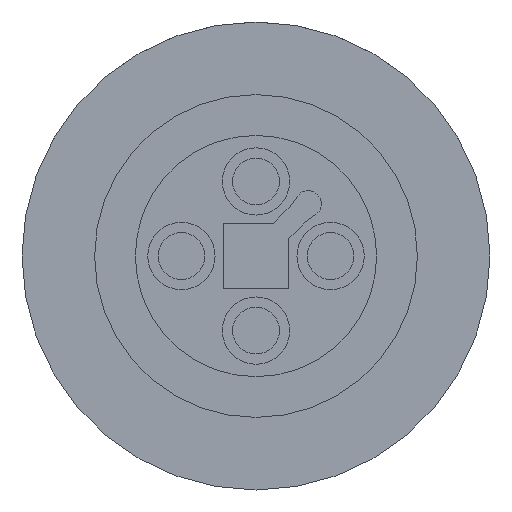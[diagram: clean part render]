
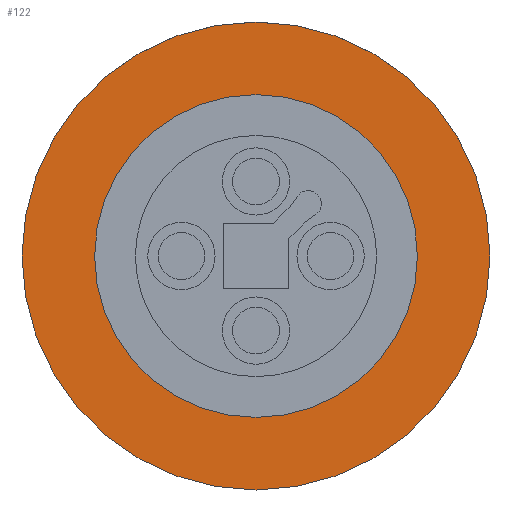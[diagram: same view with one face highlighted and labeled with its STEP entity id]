
A CAD part, front view. The second image highlights one B-rep face of the part: STEP entity #122.
In plain terms, the highlighted planar face has unit normal (0, -1, 0).
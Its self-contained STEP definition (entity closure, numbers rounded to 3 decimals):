
#42 = DIRECTION ( 'NONE',  ( 0., 0., -1. ) ) ;
#74 = EDGE_CURVE ( 'NONE', #2728, #2045, #2833, .T. ) ;
#78 = EDGE_LOOP ( 'NONE', ( #155, #629 ) ) ;
#86 = DIRECTION ( 'NONE',  ( 0., 1., 0. ) ) ;
#89 = ORIENTED_EDGE ( 'NONE', *, *, #141, .T. ) ;
#122 = ADVANCED_FACE ( 'NONE', ( #2101, #1867 ), #2812, .T. ) ;
#141 = EDGE_CURVE ( 'NONE', #2538, #2089, #1887, .T. ) ;
#155 = ORIENTED_EDGE ( 'NONE', *, *, #943, .F. ) ;
#295 = DIRECTION ( 'NONE',  ( 0., 0., -1. ) ) ;
#325 = AXIS2_PLACEMENT_3D ( 'NONE', #786, #952, #2087 ) ;
#512 = DIRECTION ( 'NONE',  ( 0., 1., 0. ) ) ;
#529 = DIRECTION ( 'NONE',  ( 0., 0., -1. ) ) ;
#621 = CARTESIAN_POINT ( 'NONE',  ( 0., -53.45, -0.001 ) ) ;
#629 = ORIENTED_EDGE ( 'NONE', *, *, #74, .F. ) ;
#638 = CARTESIAN_POINT ( 'NONE',  ( 0., -53.45, 7.999 ) ) ;
#661 = CARTESIAN_POINT ( 'NONE',  ( 0., -53.45, -8.001 ) ) ;
#731 = CARTESIAN_POINT ( 'NONE',  ( 0., -53.45, -0.001 ) ) ;
#737 = DIRECTION ( 'NONE',  ( 0., 1., 0. ) ) ;
#786 = CARTESIAN_POINT ( 'NONE',  ( -7.07, -53.45, 1.542 ) ) ;
#810 = CIRCLE ( 'NONE', #2471, 5.518 ) ;
#943 = EDGE_CURVE ( 'NONE', #2045, #2728, #1000, .T. ) ;
#952 = DIRECTION ( 'NONE',  ( 0., -1., 0. ) ) ;
#969 = CARTESIAN_POINT ( 'NONE',  ( 0., -53.45, -0.001 ) ) ;
#1000 = CIRCLE ( 'NONE', #1849, 8. ) ;
#1037 = AXIS2_PLACEMENT_3D ( 'NONE', #731, #512, #529 ) ;
#1272 = DIRECTION ( 'NONE',  ( 0., 1., 0. ) ) ;
#1325 = AXIS2_PLACEMENT_3D ( 'NONE', #969, #86, #295 ) ;
#1487 = CARTESIAN_POINT ( 'NONE',  ( 0., -53.45, -5.519 ) ) ;
#1651 = CARTESIAN_POINT ( 'NONE',  ( 0., -53.45, -0.001 ) ) ;
#1689 = ORIENTED_EDGE ( 'NONE', *, *, #2754, .T. ) ;
#1849 = AXIS2_PLACEMENT_3D ( 'NONE', #1651, #737, #42 ) ;
#1867 = FACE_BOUND ( 'NONE', #2907, .T. ) ;
#1887 = CIRCLE ( 'NONE', #1037, 5.518 ) ;
#2045 = VERTEX_POINT ( 'NONE', #661 ) ;
#2087 = DIRECTION ( 'NONE',  ( 0., 0., -1. ) ) ;
#2089 = VERTEX_POINT ( 'NONE', #1487 ) ;
#2101 = FACE_OUTER_BOUND ( 'NONE', #78, .T. ) ;
#2458 = DIRECTION ( 'NONE',  ( 0., 0., -1. ) ) ;
#2471 = AXIS2_PLACEMENT_3D ( 'NONE', #621, #1272, #2458 ) ;
#2538 = VERTEX_POINT ( 'NONE', #2605 ) ;
#2605 = CARTESIAN_POINT ( 'NONE',  ( 0., -53.45, 5.516 ) ) ;
#2728 = VERTEX_POINT ( 'NONE', #638 ) ;
#2754 = EDGE_CURVE ( 'NONE', #2089, #2538, #810, .T. ) ;
#2812 = PLANE ( 'NONE',  #325 ) ;
#2833 = CIRCLE ( 'NONE', #1325, 8. ) ;
#2907 = EDGE_LOOP ( 'NONE', ( #1689, #89 ) ) ;
